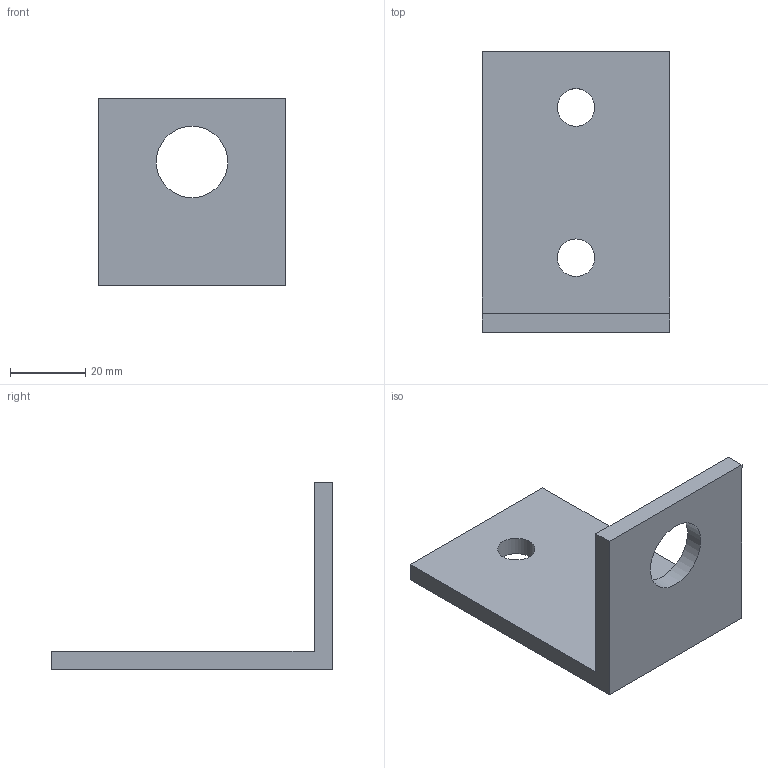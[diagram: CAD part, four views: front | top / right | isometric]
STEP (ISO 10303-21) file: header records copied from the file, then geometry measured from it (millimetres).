
FILE_DESCRIPTION(/* description */ (''),/* implementation_level */ '2;1');
FILE_NAME(/* name */ 'Pos146-Hoeklijn 75x50x5-Aluminium-1st',/* time_stamp */ '2024-08-06T11:49:44+02:00',/* author */ (''),/* organization */ (''),/* preprocessor_version */ 'ST-DEVELOPER v16.5',/* originating_system */ 'HiCAD 2024 2901.2 Build 361',/* authorisation */ '');
FILE_SCHEMA (('AUTOMOTIVE_DESIGN { 1 0 10303 214 1 1 1 1 }'));
Length unit declared in the file: millimetre
Products named in the file (1): Pos146-Hoeklijn 75x50x5-Aluminium-1st
Bounding box: 50 x 75 x 50 mm (x, y, z)
Volume: 27797 mm3; surface area: 13431.4 mm2
Topology: 1 solids, 1 shells, 11 faces, 30 edges, 21 vertices
Faces by surface type: plane 8, cylinder 3
Full cylindrical faces by diameter (mm): 10 x2, 19 x1
Entity records: 582 total; most frequent: CARTESIAN_POINT 53, DIRECTION 52, PRESENTATION_STYLE_ASSIGNMENT 49, COLOUR_RGB 49, DRAUGHTING_PRE_DEFINED_CURVE_FONT 48, CURVE_STYLE 48, OVER_RIDING_STYLED_ITEM 48, ORIENTED_EDGE 48
